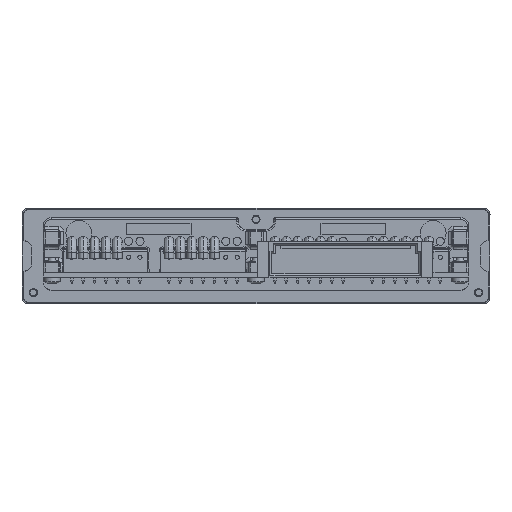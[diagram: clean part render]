
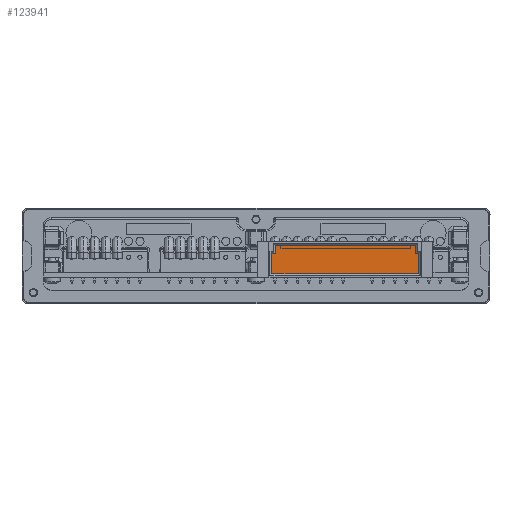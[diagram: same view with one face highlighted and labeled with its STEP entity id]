
A CAD part, left-side view. The second image highlights one B-rep face of the part: STEP entity #123941.
In plain terms, the highlighted free-form (B-spline) face has degree [1, 1] with [2, 2] control points.
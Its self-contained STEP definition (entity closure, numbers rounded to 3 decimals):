
#32301=DIRECTION('',(0.,-1.,0.));
#32302=VECTOR('',#32301,45.2);
#32303=CARTESIAN_POINT('',(-72.29,74.75,24.65));
#32304=LINE('',#32303,#32302);
#32305=DIRECTION('',(0.,0.,-1.));
#32306=VECTOR('',#32305,6.2);
#32307=CARTESIAN_POINT('',(-72.29,74.75,30.85));
#32308=LINE('',#32307,#32306);
#32309=DIRECTION('',(0.,1.,0.));
#32310=VECTOR('',#32309,1.);
#32311=CARTESIAN_POINT('',(-72.29,73.75,30.85));
#32312=LINE('',#32311,#32310);
#32313=DIRECTION('',(0.,0.,-1.));
#32314=VECTOR('',#32313,2.5);
#32315=CARTESIAN_POINT('',(-72.29,73.75,33.35));
#32316=LINE('',#32315,#32314);
#32317=DIRECTION('',(0.,1.,0.));
#32318=VECTOR('',#32317,43.2);
#32319=CARTESIAN_POINT('',(-72.29,30.55,33.35));
#32320=LINE('',#32319,#32318);
#32321=DIRECTION('',(0.,0.,1.));
#32322=VECTOR('',#32321,2.5);
#32323=CARTESIAN_POINT('',(-72.29,30.55,30.85));
#32324=LINE('',#32323,#32322);
#32325=DIRECTION('',(0.,1.,0.));
#32326=VECTOR('',#32325,1.);
#32327=CARTESIAN_POINT('',(-72.29,29.55,30.85));
#32328=LINE('',#32327,#32326);
#32329=DIRECTION('',(0.,0.,1.));
#32330=VECTOR('',#32329,6.2);
#32331=CARTESIAN_POINT('',(-72.29,29.55,24.65));
#32332=LINE('',#32331,#32330);
#37068=CARTESIAN_POINT('',(-72.29,74.75,24.65));
#37069=CARTESIAN_POINT('',(-72.29,29.55,24.65));
#37070=VERTEX_POINT('',#37068);
#37071=VERTEX_POINT('',#37069);
#37072=CARTESIAN_POINT('',(-72.29,29.55,30.85));
#37073=VERTEX_POINT('',#37072);
#37074=CARTESIAN_POINT('',(-72.29,30.55,30.85));
#37075=VERTEX_POINT('',#37074);
#37076=CARTESIAN_POINT('',(-72.29,30.55,33.35));
#37077=VERTEX_POINT('',#37076);
#37078=CARTESIAN_POINT('',(-72.29,73.75,33.35));
#37079=VERTEX_POINT('',#37078);
#37080=CARTESIAN_POINT('',(-72.29,73.75,30.85));
#37081=VERTEX_POINT('',#37080);
#37082=CARTESIAN_POINT('',(-72.29,74.75,30.85));
#37083=VERTEX_POINT('',#37082);
#123926=CARTESIAN_POINT('',(-72.29,28.646,24.476));
#123927=CARTESIAN_POINT('',(-72.29,75.654,24.476));
#123928=CARTESIAN_POINT('',(-72.29,28.646,33.524));
#123929=CARTESIAN_POINT('',(-72.29,75.654,33.524));
#123930=B_SPLINE_SURFACE_WITH_KNOTS('',1,1,((#123926,#123927),(#123928,
#123929)),.UNSPECIFIED.,.F.,.F.,.F.,(2,2),(2,2),(1.026,10.074),(-50.454,
-3.446),.UNSPECIFIED.);
#123931=ORIENTED_EDGE('',*,*,#123788,.F.);
#123932=ORIENTED_EDGE('',*,*,#123809,.F.);
#123933=ORIENTED_EDGE('',*,*,#123830,.F.);
#123934=ORIENTED_EDGE('',*,*,#123851,.F.);
#123935=ORIENTED_EDGE('',*,*,#123872,.F.);
#123936=ORIENTED_EDGE('',*,*,#123893,.F.);
#123937=ORIENTED_EDGE('',*,*,#123913,.F.);
#123938=ORIENTED_EDGE('',*,*,#123766,.F.);
#123939=EDGE_LOOP('',(#123931,#123932,#123933,#123934,#123935,#123936,#123937,
#123938));
#123940=FACE_OUTER_BOUND('',#123939,.F.);
#123941=ADVANCED_FACE('',(#123940),#123930,.T.);
#123766=EDGE_CURVE('',#37071,#37073,#32332,.T.);
#123788=EDGE_CURVE('',#37070,#37071,#32304,.T.);
#123809=EDGE_CURVE('',#37083,#37070,#32308,.T.);
#123830=EDGE_CURVE('',#37081,#37083,#32312,.T.);
#123851=EDGE_CURVE('',#37079,#37081,#32316,.T.);
#123872=EDGE_CURVE('',#37077,#37079,#32320,.T.);
#123893=EDGE_CURVE('',#37075,#37077,#32324,.T.);
#123913=EDGE_CURVE('',#37073,#37075,#32328,.T.);
